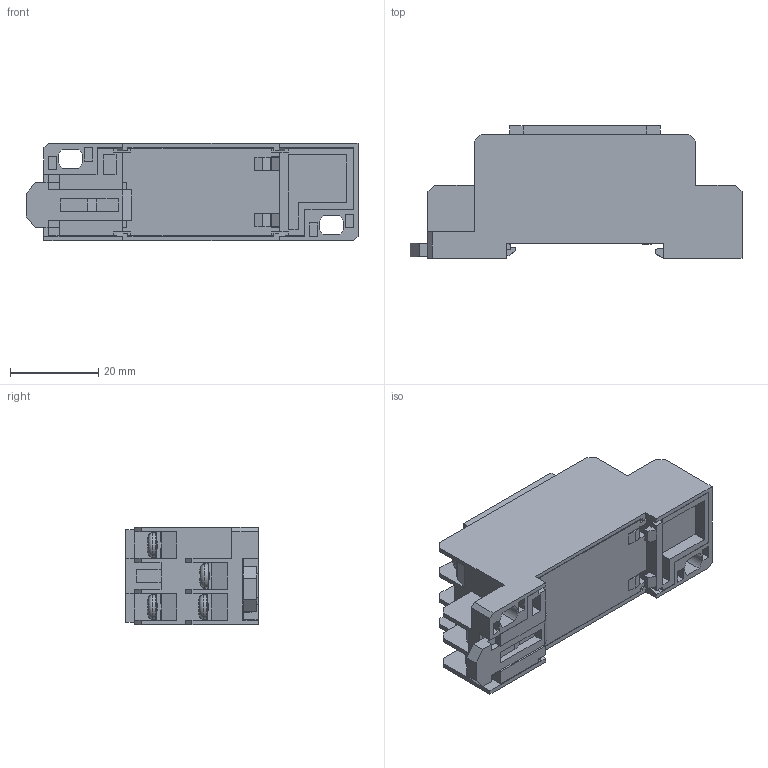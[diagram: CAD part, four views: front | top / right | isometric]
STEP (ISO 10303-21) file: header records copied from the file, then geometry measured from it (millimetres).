
FILE_DESCRIPTION(/* description */ (''),/* implementation_level */ '2;1');
FILE_NAME(/* name */ '18f-2z-c1-.stp',/* time_stamp */ '2023-06-20T10:55:21+08:00',/* author */ (''),/* organization */ (''),/* preprocessor_version */ 'ST-DEVELOPER v11',/* originating_system */ 'SIEMENS UGS NX 6.0',/* authorisation */ '');
FILE_SCHEMA (('CONFIG_CONTROL_DESIGN'));
Products named in the file (1): 18f-2z-c1-
Bounding box: 75.05 x 30 x 22 mm (x, y, z)
Volume: 14612.9 mm3; surface area: 22543.1 mm2
Topology: 11 solids, 11 shells, 1311 faces, 3678 edges, 2270 vertices
Faces by surface type: plane 807, cylinder 264, bspline 144, sphere 80, torus 8, cone 8
Full cylindrical faces by diameter (mm): 2.5 x72, 3 x8, 3.5 x1, 3.9 x2, 5.498 x8
Entity records: 56861 total; most frequent: CARTESIAN_POINT 26449, ORIENTED_EDGE 6570, DIRECTION 5941, EDGE_CURVE 3285, LINE 2373, VECTOR 2373, VERTEX_POINT 2116, AXIS2_PLACEMENT_3D 1784
